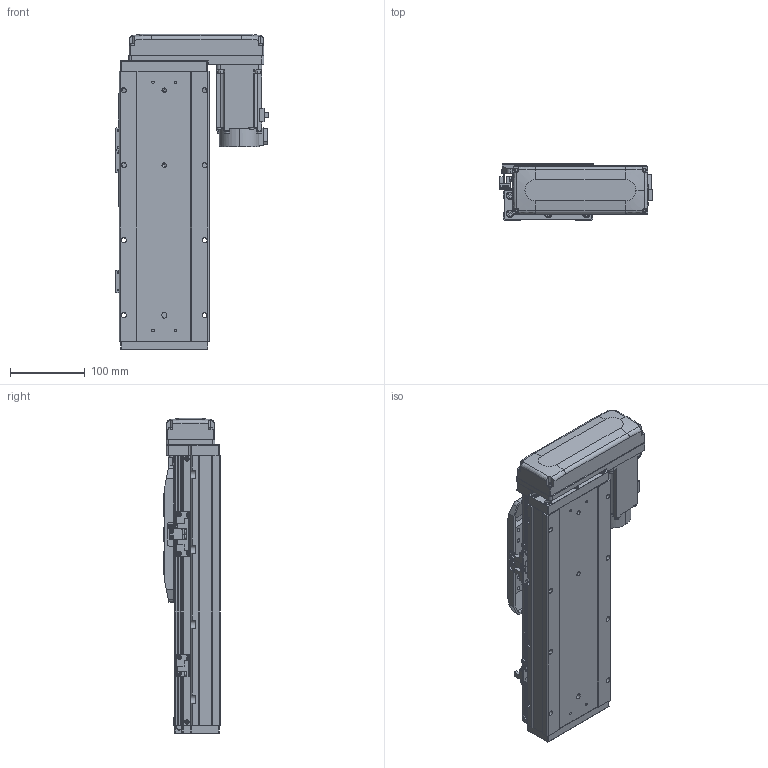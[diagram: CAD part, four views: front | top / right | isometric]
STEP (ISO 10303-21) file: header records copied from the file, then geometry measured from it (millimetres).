
FILE_DESCRIPTION (( 'STEP AP203' ), '1' );
FILE_NAME ('GTH12-150-BL-M40-C4.step', '2025-07-16T03:40:40', ( '' ), ( '' ), 'SwSTEP 2.0', 'SolidWorks 2023', '' );
FILE_SCHEMA (( 'CONFIG_CONTROL_DESIGN' ));
Length unit declared in the file: millimetre
Products named in the file (17): GTH120-003; GBT 70.1-M3×6; GBT 70.3-M3×8; 感应器总成左; GTH120-013; GTH120-006; GTH80-028; GTH80-022; GBT 70.1-M5×16; CTHA86-033_M40B; BTH-M3X5X6; hg-kn43j_-s100_; GTH120-004; GTH120-001_150; 感应器总成右; GTH12-150-BL-M40-C4; GTH120-027-1_GTH120-027-2
Assembly tree (38 placements, depth 2):
  GTH12-150-BL-M40-C4
    GTH120-001_150
    GTH120-003
    GTH120-006
    GTH120-004
    GTH120-013
    GBT 70.1-M3×6  x2
    GBT 70.1-M5×16  x10
    GBT 70.3-M3×8  x4
    GTH80-022
    GTH80-028  x2
    BTH-M3X5X6  x8
    hg-kn43j_-s100_
    CTHA86-033_M40B
    GTH120-027-1_GTH120-027-2
    感应器总成右  x2
    感应器总成左
Bounding box: 203.5 x 76 x 420.5 mm (x, y, z)
Volume: 3595572.2 mm3; surface area: 423418.4 mm2
Topology: 55 solids, 55 shells, 2290 faces, 5345 edges, 3291 vertices
Faces by surface type: plane 1188, cylinder 642, cone 284, torus 162, sphere 8, bspline 6
Entity records: 49199 total; most frequent: CARTESIAN_POINT 8424, DIRECTION 8292, ORIENTED_EDGE 7682, EDGE_CURVE 3841, AXIS2_PLACEMENT_3D 2892, VECTOR 2508, LINE 2508, VERTEX_POINT 2424
